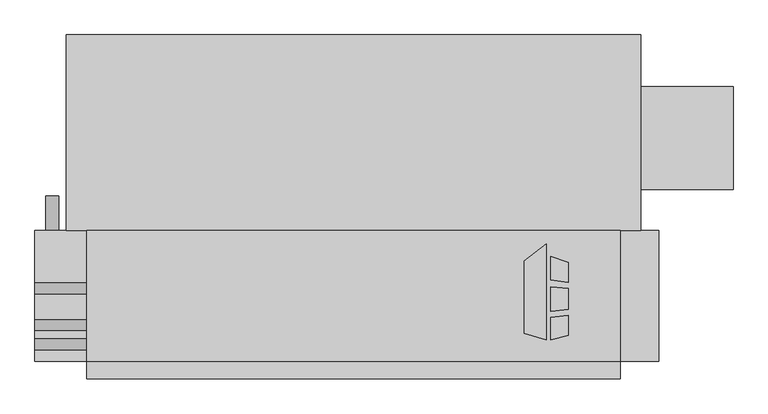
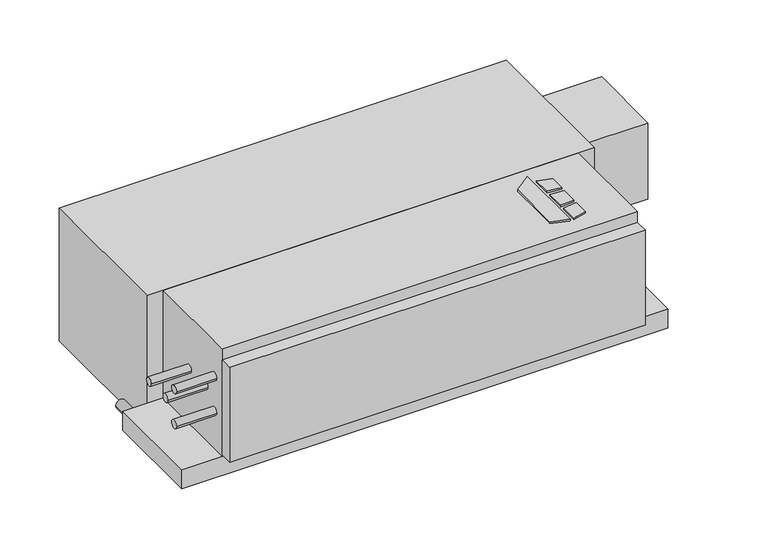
"""IFC4 building model written with IfcOpenShell, lengths in millimetres: proxy geometry, Concealed_Horizontal_Fan_Coil_Unit_With_Plenum_-_CPY_-_IEC_-_4-Pipe_LH_2022 : Size 06 - 277v/60Hz/1Ph - 4/1 Coil."""

from ifc_helpers import new_model, si_unit, point, frame, frame_2d, origin, origin_with_axes, place, context, project, spatial, polyline, circle_curve, trimmed, segment, composite_curve, outline, extrude, source, transform, mapped, element, save


def mechanical_equipment_71cb244d(model_context):
    return source(origin(), model_context, "Body", "SweptSolid", [
        extrude(outline(polyline([(404.5019761, -186.6953476), (437.0602728, -161.2580184), (437.0602728, -303.2125), (404.5019761, -292.9929201), (404.5019761, -186.6953476)])), origin_with_axes(), (0.0, 0.0, 1.0), 3.175),
        extrude(outline(polyline([(443.8186058, -214.567352), (443.8186058, -180.0874379), (469.9, -188.2740115), (469.9, -217.7697446), (443.8186058, -214.567352)])), origin_with_axes(), (0.0, 0.0, 1.0), 3.175),
        extrude(outline(polyline([(469.9, -296.2240115), (443.8186058, -303.2125), (443.8186058, -269.9911996), (469.9, -266.4493564), (469.9, -296.2240115)])), origin_with_axes(), (0.0, 0.0, 1.0), 3.175),
        extrude(outline(polyline([(469.9, -226.8513277), (469.9, -258.101483), (443.8186058, -260.842748), (443.8186058, -224.9850378), (469.9, -226.8513277)])), origin_with_axes(), (0.0, 0.0, 1.0), 3.175),
        extrude(outline(composite_curve([segment(trimmed(circle_curve(frame_2d((-241.3, -292.1)), 9.525), [point((-241.3, -301.625))], [point((-241.3, -282.575))], False, "CARTESIAN"), True, "CONTINUOUS"), segment(trimmed(circle_curve(frame_2d((-241.3, -292.1)), 9.525), [point((-241.3, -282.575))], [point((-241.3, -301.625))], False, "CARTESIAN"), True, "CONTINUOUS")], self_intersect=False)), frame((0.0, -141.2875, 0.0), z_axis=(0.0, 1.0, 0.0), x_axis=(0.0, 0.0, 1.0)), (0.0, 0.0, 1.0), 50.8),
        extrude(outline(composite_curve([segment(trimmed(circle_curve(frame_2d((-309.5625, -69.85)), 7.9375), [point((-301.625, -69.85))], [point((-317.5, -69.85))], False, "CARTESIAN"), True, "CONTINUOUS"), segment(trimmed(circle_curve(frame_2d((-309.5625, -69.85)), 7.9375), [point((-317.5, -69.85))], [point((-301.625, -69.85))], False, "CARTESIAN"), True, "CONTINUOUS")], self_intersect=False)), frame((-317.5, 0.0, 0.0), z_axis=(1.0, 0.0, 0.0), x_axis=(0.0, 1.0, 0.0)), (0.0, 0.0, 1.0), 76.2),
        extrude(outline(composite_curve([segment(trimmed(circle_curve(frame_2d((-309.5625, -139.7)), 7.9375), [point((-301.625, -139.7))], [point((-317.5, -139.7))], False, "CARTESIAN"), True, "CONTINUOUS"), segment(trimmed(circle_curve(frame_2d((-309.5625, -139.7)), 7.9375), [point((-317.5, -139.7))], [point((-301.625, -139.7))], False, "CARTESIAN"), True, "CONTINUOUS")], self_intersect=False)), frame((-317.5, 0.0, 0.0), z_axis=(1.0, 0.0, 0.0), x_axis=(0.0, 1.0, 0.0)), (0.0, 0.0, 1.0), 76.2),
        extrude(outline(composite_curve([segment(trimmed(circle_curve(frame_2d((-227.0125, -104.775)), 7.9375), [point((-219.075, -104.775))], [point((-234.95, -104.775))], False, "CARTESIAN"), True, "CONTINUOUS"), segment(trimmed(circle_curve(frame_2d((-227.0125, -104.775)), 7.9375), [point((-234.95, -104.775))], [point((-219.075, -104.775))], False, "CARTESIAN"), True, "CONTINUOUS")], self_intersect=False)), frame((-317.5, 0.0, 0.0), z_axis=(1.0, 0.0, 0.0), x_axis=(0.0, 1.0, 0.0)), (0.0, 0.0, 1.0), 76.2),
        extrude(outline(composite_curve([segment(trimmed(circle_curve(frame_2d((-280.9875, -104.775)), 7.9375), [point((-273.05, -104.775))], [point((-288.925, -104.775))], False, "CARTESIAN"), True, "CONTINUOUS"), segment(trimmed(circle_curve(frame_2d((-280.9875, -104.775)), 7.9375), [point((-288.925, -104.775))], [point((-273.05, -104.775))], False, "CARTESIAN"), True, "CONTINUOUS")], self_intersect=False)), frame((-317.5, 0.0, 0.0), z_axis=(1.0, 0.0, 0.0), x_axis=(0.0, 1.0, 0.0)), (0.0, 0.0, 1.0), 76.2),
        extrude(outline(polyline([(546.1, -334.9625), (546.1, -360.3625), (-241.3, -360.3625), (-241.3, -334.9625), (546.1, -334.9625)])), frame((0.0, 0.0, -212.725), z_axis=(0.0, 0.0, 1.0), x_axis=(1.0, 0.0, 0.0)), (0.0, 0.0, 1.0), 190.5),
        extrude(outline(polyline([(546.1, -334.9625), (-241.3, -334.9625), (-241.3, -141.2875), (546.1, -141.2875), (546.1, -334.9625)])), frame((0.0, 0.0, -215.9), z_axis=(0.0, 0.0, 1.0), x_axis=(1.0, 0.0, 0.0)), (0.0, 0.0, 1.0), 215.9),
        extrude(outline(polyline([(603.25, -141.2875), (603.25, -334.9625), (-317.5, -334.9625), (-317.5, -141.2875), (603.25, -141.2875)])), frame((0.0, 0.0, -254.0), z_axis=(0.0, 0.0, 1.0), x_axis=(1.0, 0.0, 0.0)), (0.0, 0.0, 1.0), 38.1),
        extrude(outline(polyline([(712.7875, 71.4375), (712.7875, -80.9625), (576.2625, -80.9625), (576.2625, 71.4375), (712.7875, 71.4375)])), frame((0.0, 0.0, -187.325), z_axis=(0.0, 0.0, 1.0), x_axis=(1.0, 0.0, 0.0)), (0.0, 0.0, 1.0), 152.4),
        extrude(outline(polyline([(-271.4625, 147.6375), (576.2625, 147.6375), (576.2625, -141.2875), (-271.4625, -141.2875), (-271.4625, 147.6375)])), frame((0.0, 0.0, -266.7), z_axis=(0.0, 0.0, 1.0), x_axis=(1.0, 0.0, 0.0)), (0.0, 0.0, 1.0), 266.7),
    ])


if __name__ == "__main__":
    model = new_model("IFC4")
    model_context = context("Model", 3, world=origin())
    ifc_project = project(units=[si_unit("LENGTHUNIT", "METRE", prefix="MILLI")], contexts=[model_context])
    site = spatial("IfcSite", under=ifc_project)
    building = spatial("IfcBuilding", under=site)
    placement = place(None, origin())
    mechanical_equipment_shape = mechanical_equipment_71cb244d(model_context)
    element("IfcBuildingElementProxy", 1, Name="Concealed_Horizontal_Fan_Coil_Unit_With_Plenum_-_CPY_-_IEC_-_4-Pipe_LH_2022 : Size 06 - 277v/60Hz/1Ph - 4/1 Coil", ObjectType="Concealed_Horizontal_Fan_Coil_Unit_With_Plenum_-_CPY_-_IEC_-_4-Pipe_LH_2022 : Size 06 - 277v/60Hz/1Ph - 4/1 Coil", at=placement, inside=building, context=model_context, shape_type="MappedRepresentation", body=[
        mapped(mechanical_equipment_shape, transform((0.0, 0.0, 0.0), x_axis=(1.0, 0.0, 0.0), y_axis=(0.0, 1.0, 0.0), z_axis=(0.0, 0.0, 1.0))),
    ])
    save(model, "model.ifc")
